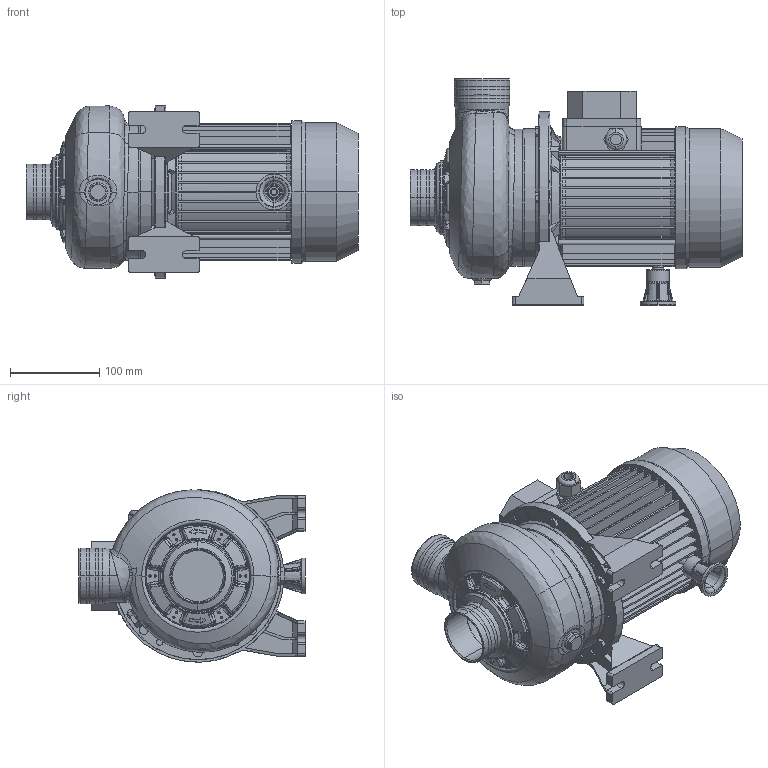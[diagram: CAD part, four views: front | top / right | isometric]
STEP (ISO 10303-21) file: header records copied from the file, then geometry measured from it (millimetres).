
FILE_DESCRIPTION((''),'2;1');
FILE_NAME('DWC_N_300_1_1_IE2_ASM','2011-06-27T',('Utente'),('"Ebara Pumps Europe +39.444.706811"'),'PRO/ENGINEER BY PARAMETRIC TECHNOLOGY CORPORATION, 2009360','PRO/ENGINEER BY PARAMETRIC TECHNOLOGY CORPORATION, 2009360','');
FILE_SCHEMA(('AUTOMOTIVE_DESIGN { 1 0 10303 214 1 1 1 1 }'));
Length unit declared in the file: millimetre
Products named in the file (12): MEC_80X100_IE2; 80596; 251420991; 10054; 76006; 40032; 10191; 62077; 20106_ASM; 72011; 72028; DWC_N_300_1_1_IE2_ASM
Assembly tree (13 placements, depth 3):
  DWC_N_300_1_1_IE2_ASM
    MEC_80X100_IE2
    80596
    20106_ASM
      251420991
      10054
      76006  x2
      40032  x2
      10191
      62077
    72011
    72028
Bounding box: 371.5 x 253 x 192.9 mm (x, y, z)
Volume: 2766920.7 mm3; surface area: 651105.3 mm2
Topology: 12 solids, 12 shells, 1657 faces, 3986 edges, 2402 vertices
Faces by surface type: plane 504, bspline 434, cylinder 284, torus 218, cone 171, sphere 42, extrusion 4
Entity records: 90027 total; most frequent: CARTESIAN_POINT 39616, ORIENTED_EDGE 7790, DIRECTION 6741, EDGE_CURVE 3895, PRESENTATION_STYLE_ASSIGNMENT 3848, STYLED_ITEM 3848, CURVE_STYLE 3839, AXIS2_PLACEMENT_3D 2798
